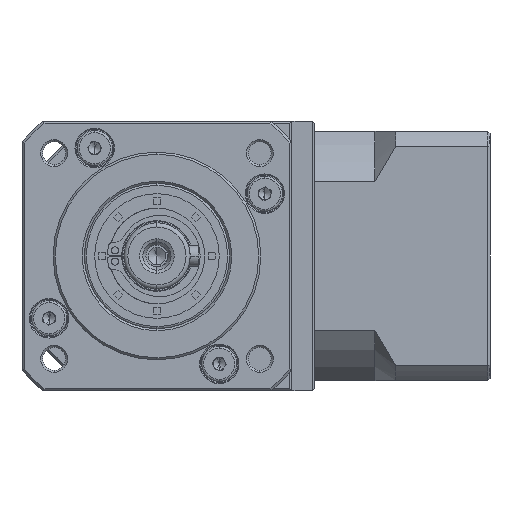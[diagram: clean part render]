
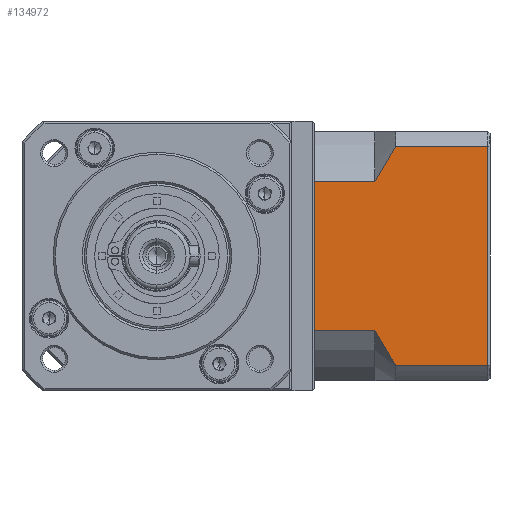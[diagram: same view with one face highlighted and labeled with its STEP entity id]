
A CAD part, left-side view. The second image highlights one B-rep face of the part: STEP entity #134972.
In plain terms, the highlighted planar face has unit normal (-1, 0, 0).
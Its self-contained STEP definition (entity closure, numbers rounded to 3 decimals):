
#203 = LINE ( 'NONE', #4345, #39095 ) ;
#2167 = CARTESIAN_POINT ( 'NONE',  ( -32.751, -64.701, -126.769 ) ) ;
#2297 = CARTESIAN_POINT ( 'NONE',  ( -32.751, -106.401, -138.741 ) ) ;
#2963 = CARTESIAN_POINT ( 'NONE',  ( -32.751, -106.401, -135.199 ) ) ;
#4345 = CARTESIAN_POINT ( 'NONE',  ( -32.751, -79.201, -126.769 ) ) ;
#5607 = EDGE_CURVE ( 'NONE', #59959, #141777, #95705, .T. ) ;
#6472 = CARTESIAN_POINT ( 'NONE',  ( -32.751, -80.753, -87.83 ) ) ;
#7997 = ORIENTED_EDGE ( 'NONE', *, *, #138254, .T. ) ;
#11807 = EDGE_CURVE ( 'NONE', #136988, #159719, #59677, .T. ) ;
#14576 = ORIENTED_EDGE ( 'NONE', *, *, #168572, .T. ) ;
#18391 = VECTOR ( 'NONE', #129794, 1000. ) ;
#21144 = CARTESIAN_POINT ( 'NONE',  ( -32.751, -79.201, -90.714 ) ) ;
#23060 = B_SPLINE_CURVE_WITH_KNOTS ( 'NONE', 3,
 ( #93554, #180320, #78954, #6472, #108076, #21144 ),
 .UNSPECIFIED., .F., .F.,
 ( 4, 2, 4 ),
 ( 0.052, 0.057, 0.062 ),
 .UNSPECIFIED. ) ;
#25845 = LINE ( 'NONE', #42047, #103003 ) ;
#27976 = CARTESIAN_POINT ( 'NONE',  ( -32.751, -82.426, -132.456 ) ) ;
#30136 = EDGE_LOOP ( 'NONE', ( #96436, #7997, #89895, #147777, #57632, #115711, #74810, #14576 ) ) ;
#37184 = LINE ( 'NONE', #2297, #114267 ) ;
#39095 = VECTOR ( 'NONE', #135777, 1000. ) ;
#42047 = CARTESIAN_POINT ( 'NONE',  ( -32.751, -79.201, -135.199 ) ) ;
#42611 = CARTESIAN_POINT ( 'NONE',  ( -32.751, -84.201, -135.199 ) ) ;
#42747 = CARTESIAN_POINT ( 'NONE',  ( -32.751, -106.401, -82.284 ) ) ;
#54308 = CARTESIAN_POINT ( 'NONE',  ( -32.751, -106.901, -138.741 ) ) ;
#55422 = VERTEX_POINT ( 'NONE', #2167 ) ;
#56646 = CARTESIAN_POINT ( 'NONE',  ( -32.751, -79.951, -128.226 ) ) ;
#57632 = ORIENTED_EDGE ( 'NONE', *, *, #5607, .F. ) ;
#59677 = LINE ( 'NONE', #161784, #136698 ) ;
#59959 = VERTEX_POINT ( 'NONE', #110951 ) ;
#68250 = PLANE ( 'NONE',  #76609 ) ;
#68903 = DIRECTION ( 'NONE',  ( 0., 1., 0. ) ) ;
#74810 = ORIENTED_EDGE ( 'NONE', *, *, #77504, .F. ) ;
#76609 = AXIS2_PLACEMENT_3D ( 'NONE', #54308, #155606, #68903 ) ;
#77504 = EDGE_CURVE ( 'NONE', #105299, #55422, #203, .T. ) ;
#78954 = CARTESIAN_POINT ( 'NONE',  ( -32.751, -82.428, -85.023 ) ) ;
#79585 = VECTOR ( 'NONE', #149794, 1000. ) ;
#84877 = VERTEX_POINT ( 'NONE', #150596 ) ;
#87265 = EDGE_CURVE ( 'NONE', #59959, #55422, #156661, .T. ) ;
#89624 = DIRECTION ( 'NONE',  ( 0., -1., 0. ) ) ;
#89895 = ORIENTED_EDGE ( 'NONE', *, *, #11807, .F. ) ;
#91403 = FACE_OUTER_BOUND ( 'NONE', #30136, .T. ) ;
#93335 = EDGE_CURVE ( 'NONE', #136988, #141777, #23060, .T. ) ;
#93554 = CARTESIAN_POINT ( 'NONE',  ( -32.751, -84.201, -82.284 ) ) ;
#93677 = CARTESIAN_POINT ( 'NONE',  ( -32.751, -84.201, -82.284 ) ) ;
#95705 = LINE ( 'NONE', #130803, #18391 ) ;
#96436 = ORIENTED_EDGE ( 'NONE', *, *, #147986, .F. ) ;
#103003 = VECTOR ( 'NONE', #128875, 1000. ) ;
#103958 = DIRECTION ( 'NONE',  ( 0., 0., 1. ) ) ;
#105299 = VERTEX_POINT ( 'NONE', #119091 ) ;
#108076 = CARTESIAN_POINT ( 'NONE',  ( -32.751, -79.949, -89.262 ) ) ;
#110813 = B_SPLINE_CURVE_WITH_KNOTS ( 'NONE', 3,
 ( #172558, #56646, #114847, #27976, #129433, #42611 ),
 .UNSPECIFIED., .F., .F.,
 ( 4, 2, 4 ),
 ( 0.1, 0.104, 0.109 ),
 .UNSPECIFIED. ) ;
#110951 = CARTESIAN_POINT ( 'NONE',  ( -32.751, -64.701, -90.714 ) ) ;
#113943 = VERTEX_POINT ( 'NONE', #2963 ) ;
#114267 = VECTOR ( 'NONE', #103958, 1000. ) ;
#114847 = CARTESIAN_POINT ( 'NONE',  ( -32.751, -80.752, -129.651 ) ) ;
#115711 = ORIENTED_EDGE ( 'NONE', *, *, #87265, .T. ) ;
#119091 = CARTESIAN_POINT ( 'NONE',  ( -32.751, -79.201, -126.769 ) ) ;
#128875 = DIRECTION ( 'NONE',  ( 0., 1., 0. ) ) ;
#129433 = CARTESIAN_POINT ( 'NONE',  ( -32.751, -83.3, -133.836 ) ) ;
#129794 = DIRECTION ( 'NONE',  ( 0., -1., 0. ) ) ;
#130803 = CARTESIAN_POINT ( 'NONE',  ( -32.751, -79.201, -90.714 ) ) ;
#134972 = ADVANCED_FACE ( 'NONE', ( #91403 ), #68250, .F. ) ;
#135210 = CARTESIAN_POINT ( 'NONE',  ( -32.751, -64.701, -138.741 ) ) ;
#135777 = DIRECTION ( 'NONE',  ( 0., 1., 0. ) ) ;
#136698 = VECTOR ( 'NONE', #89624, 1000. ) ;
#136988 = VERTEX_POINT ( 'NONE', #93677 ) ;
#138254 = EDGE_CURVE ( 'NONE', #113943, #159719, #37184, .T. ) ;
#141777 = VERTEX_POINT ( 'NONE', #187156 ) ;
#147777 = ORIENTED_EDGE ( 'NONE', *, *, #93335, .T. ) ;
#147986 = EDGE_CURVE ( 'NONE', #113943, #84877, #25845, .T. ) ;
#149794 = DIRECTION ( 'NONE',  ( 0., 0., -1. ) ) ;
#150596 = CARTESIAN_POINT ( 'NONE',  ( -32.751, -84.201, -135.199 ) ) ;
#155606 = DIRECTION ( 'NONE',  ( 1., 0., 0. ) ) ;
#156661 = LINE ( 'NONE', #135210, #79585 ) ;
#159719 = VERTEX_POINT ( 'NONE', #42747 ) ;
#161784 = CARTESIAN_POINT ( 'NONE',  ( -32.751, -79.201, -82.284 ) ) ;
#168572 = EDGE_CURVE ( 'NONE', #105299, #84877, #110813, .T. ) ;
#172558 = CARTESIAN_POINT ( 'NONE',  ( -32.751, -79.201, -126.769 ) ) ;
#180320 = CARTESIAN_POINT ( 'NONE',  ( -32.751, -83.302, -83.644 ) ) ;
#187156 = CARTESIAN_POINT ( 'NONE',  ( -32.751, -79.201, -90.714 ) ) ;
